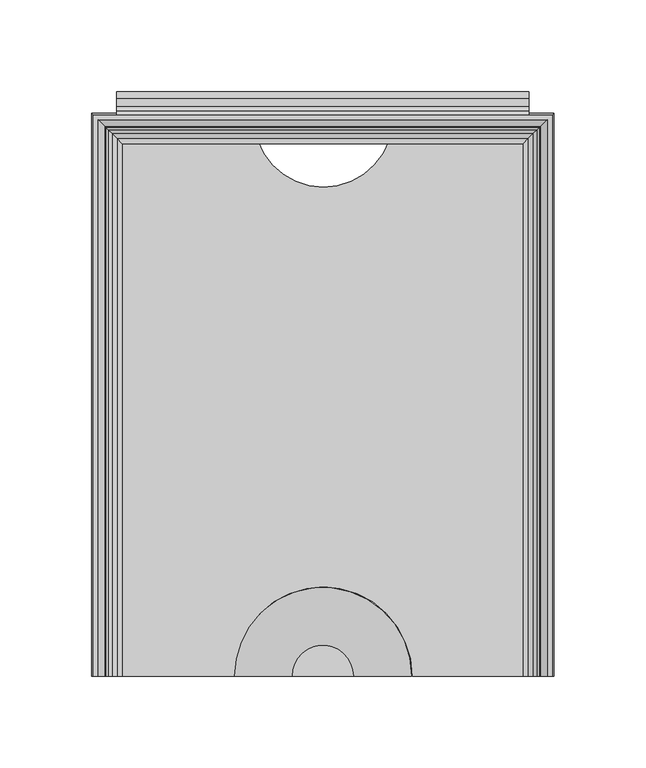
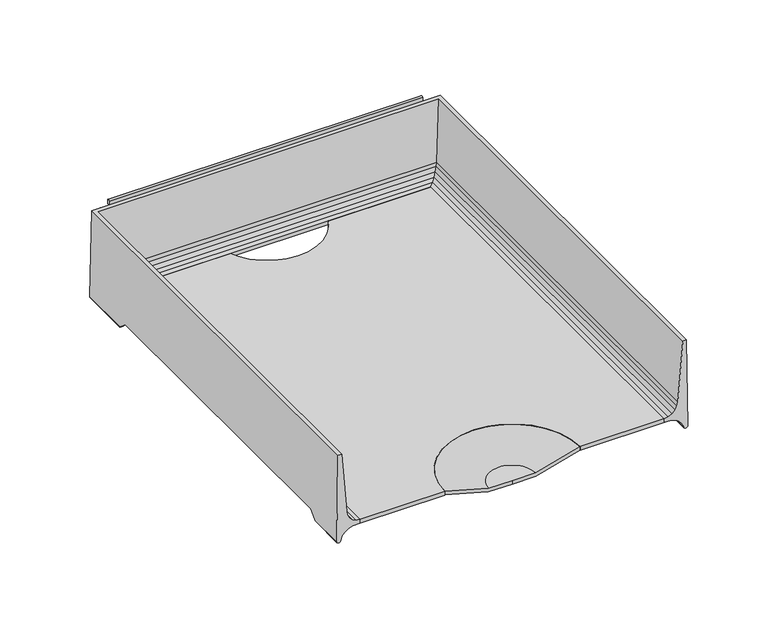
"""IFC4 building model written with IfcOpenShell, lengths in millimetres: furniture geometry."""

from ifc_helpers import new_model, si_unit, point, frame, frame_2d, origin, place, context, project, spatial, polyline, circle_curve, ellipse_curve, trimmed, segment, composite_curve, outline, extrude, source, transform, mapped, element, save
from ifc_brep_helpers import plane_surface, cylinder_surface, revolved_surface, advanced_brep


def furniture_a03a5918(model_context):
    return source(origin(), model_context, "Body", "SolidModel", [
        advanced_brep(
        [(126.0820502, -154.0206082, 747.4007489), (125.1325529, -154.0206082, 812.8001914), (122.4547921, -154.0206082, 812.8001914), (118.8379747, -154.0206082, 768.0131003), (118.4123648, -154.0206082, 765.2796052), (117.0774354, -154.0206082, 762.5785664), (114.9656457, -154.0206082, 760.4296015), (112.28832, -154.0206082, 759.0477261), (109.3133381, -154.0206082, 758.5712052), (109.3133381, -154.0206082, 755.7490971), (114.5666739, -154.0206082, 755.5560987), (117.605351, -154.0206082, 754.4997218), (120.2416, -154.0206082, 752.6558822), (122.2762142, -154.0206082, 750.1639079), (123.1625518, -154.0206082, 747.1206655), (126.0820502, -127.6379698, 747.4007489), (126.0026181, -121.5231874, 752.871872), (126.0026181, 109.0611937, 752.871872), (126.0820502, 115.1759816, 747.4007489), (126.0820502, 153.036442, 747.4007489), (125.1325529, 152.0869447, 812.8001914), (-125.1325529, 152.0869447, 812.8001914), (-125.1325529, -154.0206082, 812.8001914), (-122.4547921, -154.0206082, 812.8001914), (-122.4547921, 149.4091839, 812.8001914), (122.4547921, 149.4091839, 812.8001914), (118.8379747, 145.7923665, 768.0131003), (118.4123648, 145.3667566, 765.2796052), (117.0774354, 144.0318272, 762.5785664), (114.9656457, 141.9200375, 760.4296015), (112.28832, 139.2427118, 759.0477261), (109.3133381, 136.2677299, 758.5712052), (109.3133381, 136.2677299, 755.7490971), (114.5666739, 141.5210656, 755.5560987), (117.605351, 144.5597428, 754.4997218), (120.2416, 147.1959918, 752.6558822), (120.2416, 109.3025941, 752.6558822), (119.9327864, 109.0611937, 752.871872), (119.9327864, -121.5231874, 752.871872), (120.2416, -121.7645876, 752.6558822), (122.2762142, -124.5497344, 750.1639079), (122.2762142, 149.230606, 750.1639079), (122.2762142, 112.0877435, 750.1639079), (123.1625518, -127.9510041, 747.1206655), (123.1625518, 150.1169436, 747.1206655), (123.1625518, 115.4890162, 747.1206655), (-126.0820502, 153.036442, 747.4007489), (-118.8379747, 145.7923665, 768.0131003), (-118.4123648, 145.3667566, 765.2796052), (-117.0774354, 144.0318272, 762.5785664), (-114.9656457, 141.9200375, 760.4296015), (-112.28832, 139.2427118, 759.0477261), (-109.3133381, 136.2677299, 758.5712052), (-109.3133381, 136.2677299, 755.7490971), (-114.5666739, 141.5210656, 755.5560987), (-117.605351, 144.5597428, 754.4997218), (-120.2416, 147.1959918, 752.6558822), (-122.2762142, 149.230606, 750.1639079), (-123.1625518, 150.1169436, 747.1206655), (-126.0820502, -154.0206082, 747.4007489), (-123.1625518, -154.0206082, 747.1206655), (-122.2762142, -154.0206082, 750.1639079), (-120.2416, -154.0206082, 752.6558822), (-117.605351, -154.0206082, 754.4997218), (-114.5666739, -154.0206082, 755.5560987), (-109.3133381, -154.0206082, 755.7490971), (-109.3133381, -154.0206082, 758.5712052), (-112.28832, -154.0206082, 759.0477261), (-114.9656457, -154.0206082, 760.4296015), (-117.0774354, -154.0206082, 762.5785664), (-118.4123648, -154.0206082, 765.2796052), (-118.8379747, -154.0206082, 768.0131003), (-126.0820502, 115.1759816, 747.4007489), (-126.0026181, 109.0611937, 752.871872), (-126.0026181, -121.5231874, 752.871872), (-126.0820502, -127.6379698, 747.4007489), (-120.2416, -121.7645876, 752.6558822), (-119.9327864, -121.5231874, 752.871872), (-119.9327864, 109.0611937, 752.871872), (-120.2416, 109.3025941, 752.6558822), (-122.2762142, 112.0877435, 750.1639079), (-122.2762142, -124.5497344, 750.1639079), (-123.1625518, 115.4890162, 747.1206655), (-123.1625518, -127.9510041, 747.1206655)],
        [
            (0, 1),
            (1, 2),
            (2, 3),
            (3, 4),
            (4, 5),
            (5, 6),
            (6, 7),
            (7, 8),
            (8, 9),
            (9, 10),
            (10, 11),
            (11, 12),
            (12, 13),
            (13, 14),
            (14, 0, circle_curve(frame((124.5859452, -154.0206082, 747.6396685), z_axis=(0.0, -1.0, 0.0), x_axis=(-1.0, 0.0, 0.0)), 1.515062)),
            (0, 15),
            (15, 16),
            (16, 17),
            (17, 18),
            (18, 19),
            (19, 20),
            (20, 1),
            (20, 21),
            (21, 22),
            (22, 23),
            (23, 24),
            (24, 25),
            (25, 2),
            (25, 26),
            (26, 3),
            (26, 27),
            (27, 4),
            (27, 28),
            (28, 5),
            (28, 29),
            (29, 6),
            (29, 30),
            (30, 7),
            (30, 31),
            (31, 8),
            (31, 32),
            (32, 9),
            (32, 33),
            (33, 10),
            (33, 34),
            (34, 11),
            (34, 35),
            (35, 36),
            (36, 37),
            (37, 38),
            (38, 39),
            (39, 12),
            (39, 40),
            (40, 13),
            (35, 41),
            (41, 42),
            (42, 36),
            (40, 43),
            (43, 14),
            (41, 44),
            (44, 45),
            (45, 42),
            (43, 15, ellipse_curve(frame((124.5859452, -127.3709422, 747.6396685), z_axis=(0.0, -0.6667949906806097, 0.7452411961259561), x_axis=(0.0, -0.7452411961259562, -0.6667949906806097)), 2.2721556, 1.515062)),
            (44, 19, ellipse_curve(frame((124.5859452, 151.540337, 747.6396685), z_axis=(0.7071067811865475, -0.7071067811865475, 0.0), x_axis=(-0.7071067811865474, -0.7071067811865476, 0.0)), 2.1426212, 1.515062)),
            (18, 45, ellipse_curve(frame((124.5859452, 114.9089538, 747.6396685), z_axis=(0.0, 0.6667946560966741, 0.7452414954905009), x_axis=(0.0, -0.7452414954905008, 0.6667946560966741)), 2.2721567, 1.515062)),
            (19, 46),
            (46, 21),
            (24, 47),
            (47, 26),
            (47, 48),
            (48, 27),
            (48, 49),
            (49, 28),
            (49, 50),
            (50, 29),
            (50, 51),
            (51, 30),
            (51, 52),
            (52, 31),
            (52, 53),
            (53, 32),
            (53, 54),
            (54, 33),
            (54, 55),
            (55, 34),
            (55, 56),
            (56, 35),
            (56, 57),
            (57, 41),
            (57, 58),
            (58, 44),
            (58, 46, ellipse_curve(frame((-124.5859452, 151.540337, 747.6396685), z_axis=(0.7071067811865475, 0.7071067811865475, 0.0), x_axis=(0.7071067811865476, -0.7071067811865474, 0.0)), 2.1426212, 1.515062)),
            (22, 59),
            (59, 60, circle_curve(frame((-124.5859452, -154.0206082, 747.6396685), z_axis=(0.0, -1.0, 0.0), x_axis=(1.0, 0.0, 0.0)), 1.515062)),
            (60, 61),
            (61, 62),
            (62, 63),
            (63, 64),
            (64, 65),
            (65, 66),
            (66, 67),
            (67, 68),
            (68, 69),
            (69, 70),
            (70, 71),
            (71, 23),
            (46, 72),
            (72, 73),
            (73, 74),
            (74, 75),
            (75, 59),
            (71, 47),
            (70, 48),
            (69, 49),
            (68, 50),
            (67, 51),
            (66, 52),
            (65, 53),
            (64, 54),
            (63, 55),
            (62, 76),
            (76, 77),
            (77, 78),
            (78, 79),
            (79, 56),
            (79, 80),
            (80, 57),
            (61, 81),
            (81, 76),
            (80, 82),
            (82, 58),
            (60, 83),
            (83, 81),
            (82, 72, ellipse_curve(frame((-124.5859452, 114.9089538, 747.6396685), z_axis=(0.0, 0.6667946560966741, 0.7452414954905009), x_axis=(0.0, 0.7452414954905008, -0.6667946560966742)), 2.2721567, 1.515062)),
            (75, 83, ellipse_curve(frame((-124.5859452, -127.3709422, 747.6396685), z_axis=(0.0, -0.6667949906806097, 0.7452411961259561), x_axis=(0.0, 0.745241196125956, 0.6667949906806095)), 2.2721556, 1.515062)),
            (38, 16),
            (74, 77),
            (37, 17),
            (73, 78),
        ],
        [
            plane_surface(frame((127.0, -154.0206082, 746.125), z_axis=(0.0, -1.0, 0.0), x_axis=(0.0, 0.0, 1.0))),
            plane_surface(frame((126.0820502, -154.0206082, 747.4007489), z_axis=(0.9998946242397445, 0.0, 0.01451690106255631), x_axis=(0.0, 1.0, 0.0))),
            plane_surface(frame((125.1325529, -154.0206082, 812.8001914), z_axis=(0.0, 0.0, 1.0), x_axis=(0.0, 1.0, 0.0))),
            plane_surface(frame((122.4547921, -154.0206082, 812.8001914), z_axis=(-0.9967551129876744, 0.0, 0.08049375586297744), x_axis=(0.0, 1.0, 0.0))),
            plane_surface(frame((118.8379747, -154.0206082, 768.0131003), z_axis=(-0.9880945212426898, 0.0, 0.15384803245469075), x_axis=(0.0, 1.0, 0.0))),
            plane_surface(frame((118.4123648, -154.0206082, 765.2796052), z_axis=(-0.8964873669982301, 0.0, 0.44306929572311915), x_axis=(0.0, 1.0, 0.0))),
            plane_surface(frame((117.0774354, -154.0206082, 762.5785664), z_axis=(-0.7132491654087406, 0.0, 0.7009105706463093), x_axis=(0.0, 1.0, 0.0))),
            plane_surface(frame((114.9656457, -154.0206082, 760.4296015), z_axis=(-0.45865074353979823, 0.0, 0.8886166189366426), x_axis=(0.0, 1.0, 0.0))),
            plane_surface(frame((112.28832, -154.0206082, 759.0477261), z_axis=(-0.15816001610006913, 0.0, 0.987413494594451), x_axis=(0.0, 1.0, 0.0))),
            plane_surface(frame((109.3133381, -154.0206082, 758.5712052), z_axis=(-1.0, 0.0, 0.0), x_axis=(0.0, 1.0, 0.0))),
            plane_surface(frame((109.3133381, -154.0206082, 755.7490971), z_axis=(-0.036713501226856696, 0.0, -0.9993258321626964), x_axis=(0.0, 1.0, 0.0))),
            plane_surface(frame((114.5666739, -154.0206082, 755.5560987), z_axis=(-0.3283669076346, 0.0, -0.9445502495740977), x_axis=(0.0, 1.0, 0.0))),
            plane_surface(frame((117.605351, -154.0206082, 754.4997218), z_axis=(-0.5731421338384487, 0.0, -0.819455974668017), x_axis=(0.0, 1.0, 0.0))),
            plane_surface(frame((120.2416, -154.0206082, 752.6558822), z_axis=(-0.77460799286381, 0.0, -0.6324416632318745), x_axis=(0.0, 1.0, 0.0))),
            plane_surface(frame((122.2762142, -154.0206082, 750.1639079), z_axis=(-0.9601080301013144, 0.0, -0.2796293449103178), x_axis=(0.0, 1.0, 0.0))),
            cylinder_surface(frame((124.5859452, -154.0206082, 747.6396685), z_axis=(0.0, -1.0, 0.0), x_axis=(-1.0, 0.0, 0.0)), 1.515062),
            plane_surface(frame((126.0820502, 153.036442, 747.4007489), z_axis=(0.0, 0.9998946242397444, 0.01451690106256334), x_axis=(-1.0, 0.0, 0.0))),
            plane_surface(frame((122.4547921, 149.4091839, 812.8001914), z_axis=(0.0, -0.9967551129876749, 0.08049375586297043), x_axis=(-1.0, 0.0, 0.0))),
            plane_surface(frame((118.8379747, 145.7923665, 768.0131003), z_axis=(0.0, -0.9880945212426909, 0.15384803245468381), x_axis=(-1.0, 0.0, 0.0))),
            plane_surface(frame((118.4123648, 145.3667566, 765.2796052), z_axis=(0.0, -0.8964873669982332, 0.4430692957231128), x_axis=(-1.0, 0.0, 0.0))),
            plane_surface(frame((117.0774354, 144.0318272, 762.5785664), z_axis=(0.0, -0.7132491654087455, 0.7009105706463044), x_axis=(-1.0, 0.0, 0.0))),
            plane_surface(frame((114.9656457, 141.9200375, 760.4296015), z_axis=(0.0, -0.4586507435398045, 0.8886166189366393), x_axis=(-1.0, 0.0, 0.0))),
            plane_surface(frame((112.28832, 139.2427118, 759.0477261), z_axis=(0.0, -0.15816001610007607, 0.9874134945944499), x_axis=(-1.0, 0.0, 0.0))),
            plane_surface(frame((109.3133381, 136.2677299, 758.5712052), z_axis=(0.0, -1.0, 0.0), x_axis=(-1.0, 0.0, 0.0))),
            plane_surface(frame((109.3133381, 136.2677299, 755.7490971), z_axis=(0.0, -0.03671350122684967, -0.9993258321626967), x_axis=(-1.0, 0.0, 0.0))),
            plane_surface(frame((114.5666739, 141.5210656, 755.5560987), z_axis=(0.0, -0.32836690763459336, -0.9445502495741), x_axis=(-1.0, 0.0, 0.0))),
            plane_surface(frame((117.605351, 144.5597428, 754.4997218), z_axis=(0.0, -0.5731421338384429, -0.819455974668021), x_axis=(-1.0, 0.0, 0.0))),
            plane_surface(frame((120.2416, 147.1959918, 752.6558822), z_axis=(0.0, -0.7746079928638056, -0.6324416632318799), x_axis=(-1.0, 0.0, 0.0))),
            plane_surface(frame((122.2762142, 149.230606, 750.1639079), z_axis=(0.0, -0.9601080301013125, -0.27962934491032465), x_axis=(-1.0, 0.0, 0.0))),
            cylinder_surface(frame((127.0, 151.540337, 747.6396685), z_axis=(1.0, 0.0, 0.0), x_axis=(0.0, -1.0, 0.0)), 1.515062),
            plane_surface(frame((-127.0, -154.0206082, 746.125), z_axis=(0.0, -1.0, 0.0), x_axis=(0.0, 0.0, 1.0))),
            plane_surface(frame((-126.0820502, 153.036442, 747.4007489), z_axis=(-0.9998946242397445, 0.0, 0.01451690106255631), x_axis=(0.0, -1.0, 0.0))),
            plane_surface(frame((-122.4547921, 149.4091839, 812.8001914), z_axis=(0.9967551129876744, 0.0, 0.08049375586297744), x_axis=(0.0, -1.0, 0.0))),
            plane_surface(frame((-118.8379747, 145.7923665, 768.0131003), z_axis=(0.9880945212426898, 0.0, 0.15384803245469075), x_axis=(0.0, -1.0, 0.0))),
            plane_surface(frame((-118.4123648, 145.3667566, 765.2796052), z_axis=(0.8964873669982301, 0.0, 0.44306929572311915), x_axis=(0.0, -1.0, 0.0))),
            plane_surface(frame((-117.0774354, 144.0318272, 762.5785664), z_axis=(0.7132491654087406, 0.0, 0.7009105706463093), x_axis=(0.0, -1.0, 0.0))),
            plane_surface(frame((-114.9656457, 141.9200375, 760.4296015), z_axis=(0.45865074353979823, 0.0, 0.8886166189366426), x_axis=(0.0, -1.0, 0.0))),
            plane_surface(frame((-112.28832, 139.2427118, 759.0477261), z_axis=(0.15816001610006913, 0.0, 0.987413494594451), x_axis=(0.0, -1.0, 0.0))),
            plane_surface(frame((-109.3133381, 136.2677299, 758.5712052), z_axis=(1.0, 0.0, 0.0), x_axis=(0.0, -1.0, 0.0))),
            plane_surface(frame((-109.3133381, 136.2677299, 755.7490971), z_axis=(0.036713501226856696, 0.0, -0.9993258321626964), x_axis=(0.0, -1.0, 0.0))),
            plane_surface(frame((-114.5666739, 141.5210656, 755.5560987), z_axis=(0.3283669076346, 0.0, -0.9445502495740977), x_axis=(0.0, -1.0, 0.0))),
            plane_surface(frame((-117.605351, 144.5597428, 754.4997218), z_axis=(0.5731421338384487, 0.0, -0.819455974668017), x_axis=(0.0, -1.0, 0.0))),
            plane_surface(frame((-120.2416, 147.1959918, 752.6558822), z_axis=(0.77460799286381, 0.0, -0.6324416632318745), x_axis=(0.0, -1.0, 0.0))),
            plane_surface(frame((-122.2762142, 149.230606, 750.1639079), z_axis=(0.9601080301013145, 0.0, -0.2796293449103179), x_axis=(0.0, -1.0, 0.0))),
            cylinder_surface(frame((-124.5859452, 153.9543918, 747.6396685), z_axis=(0.0, 1.0, 0.0), x_axis=(1.0, 0.0, 0.0)), 1.515062),
            plane_surface(frame((-127.0, -130.1695728, 745.1356296), z_axis=(0.0, 0.6667949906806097, -0.7452411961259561), x_axis=(1.0, 0.0, 0.0))),
            plane_surface(frame((-127.0, -121.5231874, 752.871872), z_axis=(0.0, 0.0, -1.0), x_axis=(1.0, 0.0, 0.0))),
            plane_surface(frame((-127.0, 109.0611937, 752.871872), z_axis=(0.0, -0.6667946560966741, -0.7452414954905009), x_axis=(1.0, 0.0, 0.0))),
        ],
        [
            (0, [[1, 2, 3, 4, 5, 6, 7, 8, 9, 10, 11, 12, 13, 14, 15]]),
            (1, [[-1, 16, 17, 18, 19, 20, 21, 22]]),
            (2, [[-2, -22, 23, 24, 25, 26, 27, 28]]),
            (3, [[-3, -28, 29, 30]]),
            (4, [[-4, -30, 31, 32]]),
            (5, [[-5, -32, 33, 34]]),
            (6, [[-6, -34, 35, 36]]),
            (7, [[-7, -36, 37, 38]]),
            (8, [[-8, -38, 39, 40]]),
            (9, [[-9, -40, 41, 42]]),
            (10, [[-10, -42, 43, 44]]),
            (11, [[-11, -44, 45, 46]]),
            (12, [[-12, -46, 47, 48, 49, 50, 51, 52]]),
            (13, [[-13, -52, 53, 54]]),
            (13, [[55, 56, 57, -48]]),
            (14, [[-14, -54, 58, 59]]),
            (14, [[60, 61, 62, -56]]),
            (15, [[-15, -59, 63, -16]]),
            (15, [[64, -20, 65, -61]]),
            (16, [[-21, 66, 67, -23]]),
            (17, [[-27, 68, 69, -29]]),
            (18, [[-31, -69, 70, 71]]),
            (19, [[-33, -71, 72, 73]]),
            (20, [[-35, -73, 74, 75]]),
            (21, [[-37, -75, 76, 77]]),
            (22, [[-39, -77, 78, 79]]),
            (23, [[-41, -79, 80, 81]]),
            (24, [[-43, -81, 82, 83]]),
            (25, [[-45, -83, 84, 85]]),
            (26, [[-47, -85, 86, 87]]),
            (27, [[-55, -87, 88, 89]]),
            (28, [[-60, -89, 90, 91]]),
            (29, [[-64, -91, 92, -66]]),
            (30, [[-25, 93, 94, 95, 96, 97, 98, 99, 100, 101, 102, 103, 104, 105, 106]]),
            (31, [[-24, -67, 107, 108, 109, 110, 111, -93]]),
            (32, [[-26, -106, 112, -68]]),
            (33, [[-70, -112, -105, 113]]),
            (34, [[-72, -113, -104, 114]]),
            (35, [[-74, -114, -103, 115]]),
            (36, [[-76, -115, -102, 116]]),
            (37, [[-78, -116, -101, 117]]),
            (38, [[-80, -117, -100, 118]]),
            (39, [[-82, -118, -99, 119]]),
            (40, [[-84, -119, -98, 120]]),
            (41, [[-86, -120, -97, 121, 122, 123, 124, 125]]),
            (42, [[-88, -125, 126, 127]]),
            (42, [[-96, 128, 129, -121]]),
            (43, [[-90, -127, 130, 131]]),
            (43, [[-95, 132, 133, -128]]),
            (44, [[-92, -131, 134, -107]]),
            (44, [[-94, -111, 135, -132]]),
            (45, [[136, -17, -63, -58, -53, -51]]),
            (45, [[137, -122, -129, -133, -135, -110]]),
            (46, [[-136, -50, 138, -18]]),
            (46, [[-137, -109, 139, -123]]),
            (47, [[-138, -49, -57, -62, -65, -19]]),
            (47, [[-139, -108, -134, -130, -126, -124]]),
        ],
    ),
        extrude(outline(composite_curve([segment(polyline([(-109.3647805, 138.2769393), (-35.6610422, 138.2769393)]), True, "CONTINUOUS"), segment(trimmed(circle_curve(frame_2d((0.3369133, 150.6584166)), 38.0677525), [point((-35.6610422, 138.2769393))], [point((36.3348688, 138.2769393))], True, "CARTESIAN"), True, "CONTINUOUS"), segment(polyline([(36.3348688, 138.2769393), (109.6504969, 138.2769393), (109.6504969, -153.9875), (48.9112184, -153.9875)]), True, "CONTINUOUS"), segment(trimmed(circle_curve(frame_2d((0.2842795, -153.9323196)), 48.6269702), [point((48.9112184, -153.9875))], [point((-48.3426595, -153.9875))], True, "CARTESIAN"), True, "CONTINUOUS"), segment(polyline([(-48.3426595, -153.9875), (-109.3647805, -153.9875), (-109.3647805, 138.2769393)]), True, "CONTINUOUS")], self_intersect=False)), frame((0.0, 0.0, 755.7314677), z_axis=(0.0, 0.0, 1.0), x_axis=(1.0, 0.0, 0.0)), (0.0, 0.0, 1.0), 2.8395461),
        extrude(outline(composite_curve([segment(trimmed(circle_curve(frame_2d((162.7186949, 796.9707343)), 1.9049988), [point((164.6236937, 796.9707343))], [point((160.8136962, 796.9707343))], False, "CARTESIAN"), True, "CONTINUOUS"), segment(polyline([(160.8136962, 796.9707343), (160.8136962, 800.3997311), (160.0516969, 801.1617303), (156.4380325, 801.1617303), (152.1427596, 798.8143331), (152.1427596, 807.3191285), (156.4380325, 804.9717312), (160.8136928, 804.9717312)]), True, "CONTINUOUS"), segment(trimmed(circle_curve(frame_2d((160.8136928, 801.1617303)), 3.8100009), [point((160.8136928, 804.9717312))], [point((164.6236937, 801.1617303))], False, "CARTESIAN"), True, "CONTINUOUS"), segment(polyline([(164.6236937, 801.1617303), (164.6236937, 796.9707343)]), True, "CONTINUOUS")], self_intersect=False)), frame((-112.5397809, 0.0, 0.0), z_axis=(1.0, 0.0, 0.0), x_axis=(0.0, 1.0, 0.0)), (0.0, 0.0, 1.0), 225.0795617),
        advanced_brep(
        [(-16.8929028, -153.9875, 749.696875), (-48.4614622, -153.9875, 758.6045432), (-48.4614622, -153.9875, 756.0130018), (-16.9249292, -153.9875, 747.1143704), (0.0, -153.9875, 747.1143704), (0.0, -153.9875, 749.696875), (16.8929028, -153.9875, 749.696875), (16.9249292, -153.9875, 747.1143704), (48.4614622, -153.9875, 756.0130018), (48.4614622, -153.9875, 758.6045432)],
        [
            (0, 1),
            (1, 2),
            (2, 3),
            (3, 4),
            (4, 5),
            (5, 0),
            (6, 5),
            (4, 7),
            (7, 8),
            (8, 9),
            (9, 6),
            (9, 1, circle_curve(frame((0.0, -153.9875, 758.6045432), z_axis=(0.0, 0.0, 1.0), x_axis=(-1.0, 0.0, 0.0)), 48.4614622)),
            (0, 6, circle_curve(frame((0.0, -153.9875, 749.696875), z_axis=(0.0, 0.0, -1.0), x_axis=(-1.0, 0.0, 0.0)), 16.8929028)),
            (8, 2, circle_curve(frame((0.0, -153.9875, 756.0130018), z_axis=(0.0, 0.0, 1.0), x_axis=(-1.0, 0.0, 0.0)), 48.4614622)),
            (7, 3, circle_curve(frame((0.0, -153.9875, 747.1143704), z_axis=(0.0, 0.0, 1.0), x_axis=(-1.0, 0.0, 0.0)), 16.9249292)),
        ],
        [
            plane_surface(frame((0.0, -153.9875, 746.125), z_axis=(0.0, -1.0, 0.0), x_axis=(-1.0, 0.0, 0.0))),
            plane_surface(frame((0.0, -153.9875, 746.125), z_axis=(0.0, -1.0, 0.0), x_axis=(1.0, 0.0, 0.0))),
            revolved_surface(polyline([(-48.4614622, -153.9875, 758.6045432), (-16.8929028, -153.9875, 749.696875)]), (0.0, -153.9875, 746.125), (0.0, 0.0, 1.0)),
            cylinder_surface(frame((0.0, -153.9875, 746.125), z_axis=(0.0, 0.0, 1.0), x_axis=(-1.0, 0.0, 0.0)), 48.4614622),
            revolved_surface(polyline([(-16.9249292, -153.9875, 747.1143704), (-48.4614622, -153.9875, 756.0130018)]), (0.0, -153.9875, 746.125), (0.0, 0.0, 1.0)),
            plane_surface(frame((0.0, -153.9875, 747.1143704), z_axis=(0.0, 0.0, -1.0), x_axis=(-1.0, 0.0, 0.0))),
            plane_surface(frame((0.0, -153.9875, 749.696875), z_axis=(0.0, 0.0, 1.0), x_axis=(-1.0, 0.0, 0.0))),
        ],
        [
            (0, [[1, 2, 3, 4, 5, 6]]),
            (1, [[7, -5, 8, 9, 10, 11]]),
            (2, [[12, -1, 13, -11]]),
            (3, [[14, -2, -12, -10]]),
            (4, [[15, -3, -14, -9]]),
            (5, [[-4, -15, -8]]),
            (6, [[-13, -6, -7]]),
        ],
    ),
        extrude(outline(composite_curve([segment(polyline([(153.9875, 812.8), (152.1427596, 812.8), (152.1427596, 815.6315333)]), True, "CONTINUOUS"), segment(trimmed(circle_curve(frame_2d((153.0651298, 815.3262665)), 0.9715733), [point((152.1427596, 815.6315333))], [point((153.9875, 815.6315333))], False, "CARTESIAN"), True, "CONTINUOUS"), segment(polyline([(153.9875, 815.6315333), (153.9875, 812.8)]), True, "CONTINUOUS")], self_intersect=False)), frame((-112.5397809, 0.0, 0.0), z_axis=(1.0, 0.0, 0.0), x_axis=(0.0, 1.0, 0.0)), (0.0, 0.0, 1.0), 225.0795617),
    ])


if __name__ == "__main__":
    model = new_model("IFC4")
    model_context = context("Model", 3, world=origin())
    ifc_project = project(units=[si_unit("LENGTHUNIT", "METRE", prefix="MILLI")], contexts=[model_context])
    site = spatial("IfcSite", under=ifc_project)
    building = spatial("IfcBuilding", under=site)
    placement = place(None, origin())
    furniture_shape = furniture_a03a5918(model_context)
    element("IfcFurniture", 1, ObjectType="HermanMiller_ThrivePortfolio_Y7216_PaperTray : 3\"H x 12\"D x 10\"W", at=placement, inside=building, context=model_context, shape_type="MappedRepresentation", body=[
        mapped(furniture_shape, transform((0.0, 0.0, 0.0), x_axis=(1.0, 0.0, 0.0), y_axis=(0.0, 1.0, 0.0), z_axis=(0.0, 0.0, 1.0))),
    ])
    save(model, "model.ifc")
